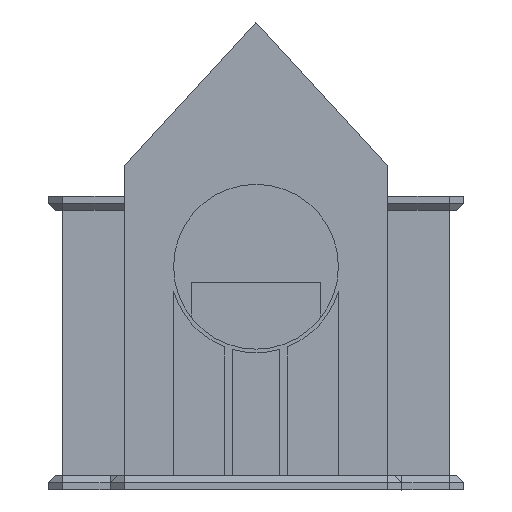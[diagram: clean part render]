
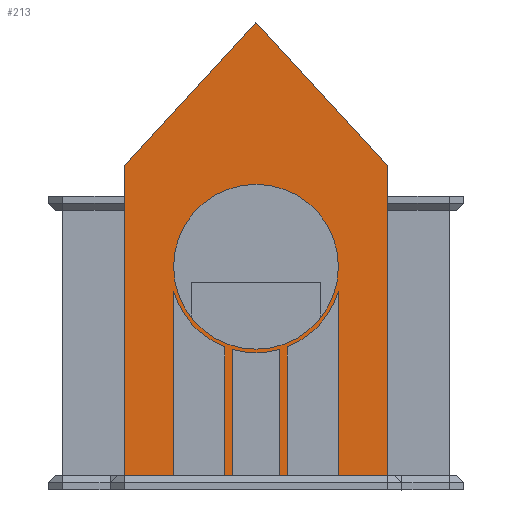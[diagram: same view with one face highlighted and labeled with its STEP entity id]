
A CAD part, left-side view. The second image highlights one B-rep face of the part: STEP entity #213.
In plain terms, the highlighted planar face has unit normal (-1, 0, 0).
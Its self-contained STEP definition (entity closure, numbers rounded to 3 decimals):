
#15=FACE_BOUND('',#731,.T.);
#213=ADVANCED_FACE('',(#471,#15),#4254,.T.);
#471=FACE_OUTER_BOUND('',#730,.T.);
#730=EDGE_LOOP('',(#1704,#1705,#1706,#1707,#1708,#1709,#1710,#1711,#1712,
#1713,#1714,#1715,#1716,#1717,#1718,#1719,#1720));
#731=EDGE_LOOP('',(#1721,#1722));
#1704=ORIENTED_EDGE('',*,*,#2693,.T.);
#1705=ORIENTED_EDGE('',*,*,#2702,.T.);
#1706=ORIENTED_EDGE('',*,*,#2662,.F.);
#1707=ORIENTED_EDGE('',*,*,#2631,.F.);
#1708=ORIENTED_EDGE('',*,*,#2400,.F.);
#1709=ORIENTED_EDGE('',*,*,#2396,.F.);
#1710=ORIENTED_EDGE('',*,*,#2666,.F.);
#1711=ORIENTED_EDGE('',*,*,#2680,.F.);
#1712=ORIENTED_EDGE('',*,*,#2679,.T.);
#1713=ORIENTED_EDGE('',*,*,#2676,.T.);
#1714=ORIENTED_EDGE('',*,*,#2678,.T.);
#1715=ORIENTED_EDGE('',*,*,#2692,.F.);
#1716=ORIENTED_EDGE('',*,*,#2691,.T.);
#1717=ORIENTED_EDGE('',*,*,#2688,.T.);
#1718=ORIENTED_EDGE('',*,*,#2690,.T.);
#1719=ORIENTED_EDGE('',*,*,#2704,.F.);
#1720=ORIENTED_EDGE('',*,*,#2703,.T.);
#1721=ORIENTED_EDGE('',*,*,#2973,.F.);
#1722=ORIENTED_EDGE('',*,*,#2629,.F.);
#2396=EDGE_CURVE('',#3806,#3807,#3229,.T.);
#2400=EDGE_CURVE('',#3807,#3810,#3233,.T.);
#2629=EDGE_CURVE('',#3814,#4175,#2975,.T.);
#2631=EDGE_CURVE('',#3810,#3726,#3379,.T.);
#2662=EDGE_CURVE('',#3726,#4052,#3409,.T.);
#2666=EDGE_CURVE('',#3731,#3806,#3413,.T.);
#2676=EDGE_CURVE('',#4039,#4038,#2977,.T.);
#2678=EDGE_CURVE('',#4038,#4036,#3423,.T.);
#2679=EDGE_CURVE('',#4037,#4039,#3424,.T.);
#2680=EDGE_CURVE('',#4037,#3731,#3425,.T.);
#2688=EDGE_CURVE('',#4047,#4046,#2979,.T.);
#2690=EDGE_CURVE('',#4046,#4044,#3433,.T.);
#2691=EDGE_CURVE('',#4045,#4047,#3434,.T.);
#2692=EDGE_CURVE('',#4045,#4036,#3435,.T.);
#2693=EDGE_CURVE('',#4054,#4055,#2981,.T.);
#2702=EDGE_CURVE('',#4055,#4052,#3441,.T.);
#2703=EDGE_CURVE('',#4053,#4054,#3442,.T.);
#2704=EDGE_CURVE('',#4053,#4044,#3443,.T.);
#2973=EDGE_CURVE('',#4175,#3814,#2983,.T.);
#2975=TRIMMED_CURVE($,#2985,(#7252),(#7253),.T.,.CARTESIAN.);
#2977=TRIMMED_CURVE($,#2987,(#7354),(#7355),.T.,.CARTESIAN.);
#2979=TRIMMED_CURVE($,#2989,(#7380),(#7381),.T.,.CARTESIAN.);
#2981=TRIMMED_CURVE($,#2991,(#7392),(#7393),.T.,.CARTESIAN.);
#2983=TRIMMED_CURVE($,#2993,(#7977),(#7978),.T.,.CARTESIAN.);
#2985=CIRCLE('',#4716,11.5);
#2987=CIRCLE('',#4718,12.);
#2989=CIRCLE('',#4720,12.);
#2991=CIRCLE('',#4722,12.);
#2993=CIRCLE('',#4724,11.5);
#3229=B_SPLINE_CURVE_WITH_KNOTS('',1,(#6449,#6450),.UNSPECIFIED.,.F.,.F.,
(2,2),(-90.985,-63.843),.UNSPECIFIED.);
#3233=B_SPLINE_CURVE_WITH_KNOTS('',1,(#6457,#6458),.UNSPECIFIED.,.F.,.F.,
(2,2),(-63.843,-36.7),.UNSPECIFIED.);
#3379=B_SPLINE_CURVE_WITH_KNOTS('',1,(#7256,#7257),.UNSPECIFIED.,.F.,.F.,
(2,2),(-45.3,-2.),.UNSPECIFIED.);
#3409=B_SPLINE_CURVE_WITH_KNOTS('',1,(#7323,#7324),.UNSPECIFIED.,.F.,.F.,
(2,2),(-36.7,-29.85),.UNSPECIFIED.);
#3413=B_SPLINE_CURVE_WITH_KNOTS('',1,(#7331,#7332),.UNSPECIFIED.,.F.,.F.,
(2,2),(2.,45.3),.UNSPECIFIED.);
#3423=B_SPLINE_CURVE_WITH_KNOTS('',1,(#7359,#7360),.UNSPECIFIED.,.F.,.F.,
(2,2),(-63.915,-45.955),.UNSPECIFIED.);
#3424=B_SPLINE_CURVE_WITH_KNOTS('',1,(#7361,#7362),.UNSPECIFIED.,.F.,.F.,
(2,2),(-38.788,-13.066),.UNSPECIFIED.);
#3425=B_SPLINE_CURVE_WITH_KNOTS('',1,(#7363,#7364),.UNSPECIFIED.,.F.,.F.,
(2,2),(-6.85,0.),.UNSPECIFIED.);
#3433=B_SPLINE_CURVE_WITH_KNOTS('',1,(#7385,#7386),.UNSPECIFIED.,.F.,.F.,
(2,2),(24.378,42.),.UNSPECIFIED.);
#3434=B_SPLINE_CURVE_WITH_KNOTS('',1,(#7387,#7388),.UNSPECIFIED.,.F.,.F.,
(2,2),(48.667,66.289),.UNSPECIFIED.);
#3435=B_SPLINE_CURVE_WITH_KNOTS('',1,(#7389,#7390),.UNSPECIFIED.,.F.,.F.,
(2,2),(-15.017,-14.017),.UNSPECIFIED.);
#3441=B_SPLINE_CURVE_WITH_KNOTS('',1,(#7411,#7412),.UNSPECIFIED.,.F.,.F.,
(2,2),(36.066,61.788),.UNSPECIFIED.);
#3442=B_SPLINE_CURVE_WITH_KNOTS('',1,(#7413,#7414),.UNSPECIFIED.,.F.,.F.,
(2,2),(68.955,86.915),.UNSPECIFIED.);
#3443=B_SPLINE_CURVE_WITH_KNOTS('',1,(#7415,#7416),.UNSPECIFIED.,.F.,.F.,
(2,2),(-22.683,-21.683),.UNSPECIFIED.);
#3726=VERTEX_POINT('',#5702);
#3731=VERTEX_POINT('',#5707);
#3806=VERTEX_POINT('',#5782);
#3807=VERTEX_POINT('',#5783);
#3810=VERTEX_POINT('',#5786);
#3814=VERTEX_POINT('',#5790);
#4036=VERTEX_POINT('',#6012);
#4037=VERTEX_POINT('',#6013);
#4038=VERTEX_POINT('',#6014);
#4039=VERTEX_POINT('',#6015);
#4044=VERTEX_POINT('',#6020);
#4045=VERTEX_POINT('',#6021);
#4046=VERTEX_POINT('',#6022);
#4047=VERTEX_POINT('',#6023);
#4052=VERTEX_POINT('',#6028);
#4053=VERTEX_POINT('',#6029);
#4054=VERTEX_POINT('',#6030);
#4055=VERTEX_POINT('',#6031);
#4175=VERTEX_POINT('',#6151);
#4254=PLANE('',#4541);
#4541=AXIS2_PLACEMENT_3D('',#4985,#4758,$);
#4716=AXIS2_PLACEMENT_3D($,#7251,#4933,#4934);
#4718=AXIS2_PLACEMENT_3D($,#7353,#4937,#4938);
#4720=AXIS2_PLACEMENT_3D($,#7379,#4941,#4942);
#4722=AXIS2_PLACEMENT_3D($,#7391,#4945,#4946);
#4724=AXIS2_PLACEMENT_3D($,#7976,#4949,#4950);
#4758=DIRECTION('',(-1.,0.,0.));
#4933=DIRECTION('',(-1.,0.,0.));
#4934=DIRECTION('',(0.,-1.,0.));
#4937=DIRECTION('',(-1.,0.,0.));
#4938=DIRECTION('',(0.,0.958,-0.286));
#4941=DIRECTION('',(-1.,0.,0.));
#4942=DIRECTION('',(0.,0.278,-0.961));
#4945=DIRECTION('',(-1.,0.,0.));
#4946=DIRECTION('',(0.,-0.361,-0.933));
#4949=DIRECTION('',(-1.,0.,0.));
#4950=DIRECTION('',(0.,1.,0.));
#4985=CARTESIAN_POINT('',(-57.5,22.02,8.667));
#5702=CARTESIAN_POINT('',(-57.5,-18.35,-56.633));
#5707=CARTESIAN_POINT('',(-57.5,18.35,-56.633));
#5782=CARTESIAN_POINT('',(-57.5,18.35,-13.333));
#5783=CARTESIAN_POINT('',(-57.5,0.,6.667));
#5786=CARTESIAN_POINT('',(-57.5,-18.35,-13.333));
#5790=CARTESIAN_POINT('',(-57.5,-11.5,-27.483));
#6012=CARTESIAN_POINT('',(-57.5,4.333,-56.633));
#6013=CARTESIAN_POINT('',(-57.5,11.5,-56.633));
#6014=CARTESIAN_POINT('',(-57.5,4.333,-38.673));
#6015=CARTESIAN_POINT('',(-57.5,11.5,-30.91));
#6020=CARTESIAN_POINT('',(-57.5,-3.333,-56.633));
#6021=CARTESIAN_POINT('',(-57.5,3.333,-56.633));
#6022=CARTESIAN_POINT('',(-57.5,-3.333,-39.01));
#6023=CARTESIAN_POINT('',(-57.5,3.333,-39.01));
#6028=CARTESIAN_POINT('',(-57.5,-11.5,-56.633));
#6029=CARTESIAN_POINT('',(-57.5,-4.333,-56.633));
#6030=CARTESIAN_POINT('',(-57.5,-4.333,-38.673));
#6031=CARTESIAN_POINT('',(-57.5,-11.5,-30.91));
#6151=CARTESIAN_POINT('',(-57.5,11.5,-27.483));
#6449=CARTESIAN_POINT('',(-57.5,18.35,-13.333));
#6450=CARTESIAN_POINT('',(-57.5,0.,6.667));
#6457=CARTESIAN_POINT('',(-57.5,0.,6.667));
#6458=CARTESIAN_POINT('',(-57.5,-18.35,-13.333));
#7251=CARTESIAN_POINT('',(-57.5,0.,-27.483));
#7252=CARTESIAN_POINT('',(-57.5,-11.5,-27.483));
#7253=CARTESIAN_POINT('',(-57.5,11.5,-27.483));
#7256=CARTESIAN_POINT('',(-57.5,-18.35,-13.333));
#7257=CARTESIAN_POINT('',(-57.5,-18.35,-56.633));
#7323=CARTESIAN_POINT('',(-57.5,-18.35,-56.633));
#7324=CARTESIAN_POINT('',(-57.5,-11.5,-56.633));
#7331=CARTESIAN_POINT('',(-57.5,18.35,-56.633));
#7332=CARTESIAN_POINT('',(-57.5,18.35,-13.333));
#7353=CARTESIAN_POINT('',(-57.5,0.,-27.483));
#7354=CARTESIAN_POINT('',(-57.5,11.5,-30.91));
#7355=CARTESIAN_POINT('',(-57.5,4.333,-38.673));
#7359=CARTESIAN_POINT('',(-57.5,4.333,-38.673));
#7360=CARTESIAN_POINT('',(-57.5,4.333,-56.633));
#7361=CARTESIAN_POINT('',(-57.5,11.5,-56.633));
#7362=CARTESIAN_POINT('',(-57.5,11.5,-30.91));
#7363=CARTESIAN_POINT('',(-57.5,11.5,-56.633));
#7364=CARTESIAN_POINT('',(-57.5,18.35,-56.633));
#7379=CARTESIAN_POINT('',(-57.5,0.,-27.483));
#7380=CARTESIAN_POINT('',(-57.5,3.333,-39.01));
#7381=CARTESIAN_POINT('',(-57.5,-3.333,-39.01));
#7385=CARTESIAN_POINT('',(-57.5,-3.333,-39.01));
#7386=CARTESIAN_POINT('',(-57.5,-3.333,-56.633));
#7387=CARTESIAN_POINT('',(-57.5,3.333,-56.633));
#7388=CARTESIAN_POINT('',(-57.5,3.333,-39.01));
#7389=CARTESIAN_POINT('',(-57.5,3.333,-56.633));
#7390=CARTESIAN_POINT('',(-57.5,4.333,-56.633));
#7391=CARTESIAN_POINT('',(-57.5,0.,-27.483));
#7392=CARTESIAN_POINT('',(-57.5,-4.333,-38.673));
#7393=CARTESIAN_POINT('',(-57.5,-11.5,-30.91));
#7411=CARTESIAN_POINT('',(-57.5,-11.5,-30.91));
#7412=CARTESIAN_POINT('',(-57.5,-11.5,-56.633));
#7413=CARTESIAN_POINT('',(-57.5,-4.333,-56.633));
#7414=CARTESIAN_POINT('',(-57.5,-4.333,-38.673));
#7415=CARTESIAN_POINT('',(-57.5,-4.333,-56.633));
#7416=CARTESIAN_POINT('',(-57.5,-3.333,-56.633));
#7976=CARTESIAN_POINT('',(-57.5,0.,-27.483));
#7977=CARTESIAN_POINT('',(-57.5,11.5,-27.483));
#7978=CARTESIAN_POINT('',(-57.5,-11.5,-27.483));
